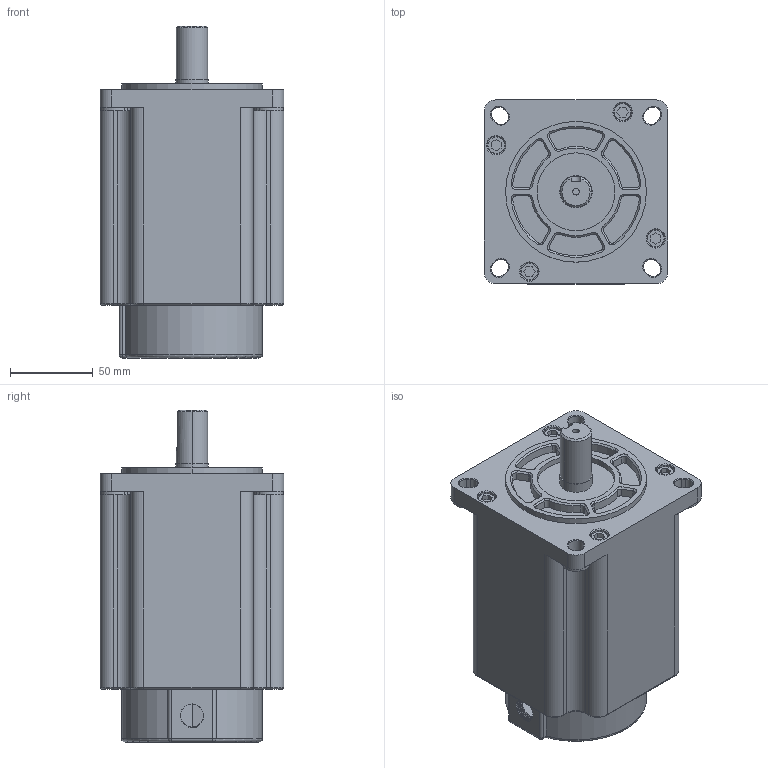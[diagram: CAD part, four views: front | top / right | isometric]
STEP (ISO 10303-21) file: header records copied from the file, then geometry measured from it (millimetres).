
FILE_DESCRIPTION((''),'2;1');
FILE_NAME('QL31115A','2022-07-05T09:40:04',('qingl'),(''),'CREO PARAMETRIC BY PTC INC, 2019224','CREO PARAMETRIC BY PTC INC, 2019224','');
FILE_SCHEMA(('CONFIG_CONTROL_DESIGN'));
Length unit declared in the file: millimetre
Products named in the file (1): QL31115A
Bounding box: 111 x 111 x 200.5 mm (x, y, z)
Volume: 1500307.2 mm3; surface area: 113922 mm2
Topology: 1 solids, 5 shells, 371 faces, 952 edges, 619 vertices
Faces by surface type: cylinder 158, plane 143, cone 53, torus 13, sphere 2, bspline 2
Entity records: 12248 total; most frequent: CARTESIAN_POINT 2902, DIRECTION 2043, ORIENTED_EDGE 1900, EDGE_CURVE 950, AXIS2_PLACEMENT_3D 774, VERTEX_POINT 619, VECTOR 495, LINE 495
